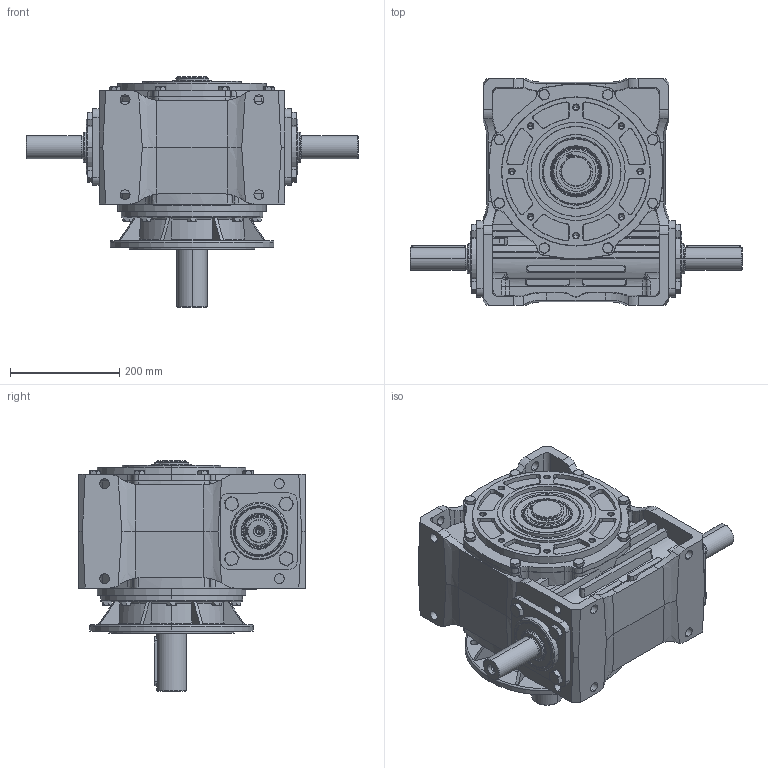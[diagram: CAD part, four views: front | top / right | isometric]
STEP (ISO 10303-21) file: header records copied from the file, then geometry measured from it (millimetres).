
FILE_DESCRIPTION (( 'STEP AP203' ), '1' );
FILE_NAME ('MR-160_WBS2-K300-WJ-3D.STEP', '2020-03-23T06:48:32', ( '' ), ( '' ), 'SwSTEP 2.0', 'SolidWorks 2013', '' );
FILE_SCHEMA (( 'CONFIG_CONTROL_DESIGN' ));
Length unit declared in the file: millimetre
Products named in the file (14): Podk³adka na wa³ek R-160; circlip for shafts normal_din_Circlip DIN 471 - 55 x 2; parallel_din_Parallel key A16 x 10 x 90 DIN 6885; MR-160 - do modeli; Pokrywa 166_do nowej wersji; Zaœlepka 110; Simmering 55x90x10 RST; Œlimak R-160_WBSD; parallel_din_Parallel key A12 x 8 x 100 DIN 6885; Ko³nierz 164_do modeli; hex screw gradeab_iso_ISO 4017 - M16 x 30-N; hex screw gradeab_iso_ISO 4017 - M10 x 30-N; MR-160_WBS2-K300-WJ-3D; Wa³ R-160_koˆnierzowy
Assembly tree (30 placements, depth 2):
  MR-160_WBS2-K300-WJ-3D
    MR-160 - do modeli
    Zaœlepka 110
    Œlimak R-160_WBSD
    Ko³nierz 164_do modeli
    hex screw gradeab_iso_ISO 4017 - M10 x 30-N  x8
    Wa³ R-160_koˆnierzowy
    Podk³adka na wa³ek R-160
    circlip for shafts normal_din_Circlip DIN 471 - 55 x 2
    parallel_din_Parallel key A16 x 10 x 90 DIN 6885
    Pokrywa 166_do nowej wersji  x2
    Simmering 55x90x10 RST  x2
    parallel_din_Parallel key A12 x 8 x 100 DIN 6885  x2
    hex screw gradeab_iso_ISO 4017 - M16 x 30-N  x8
Bounding box: 608 x 415 x 422 mm (x, y, z)
Volume: 15873938.3 mm3; surface area: 2340156.6 mm2
Topology: 42 solids, 42 shells, 3388 faces, 8133 edges, 4923 vertices
Faces by surface type: plane 1041, cone 821, cylinder 775, bspline 485, torus 187, sphere 79
Entity records: 110339 total; most frequent: CARTESIAN_POINT 44036, ORIENTED_EDGE 14038, DIRECTION 12866, EDGE_CURVE 7019, AXIS2_PLACEMENT_3D 5135, VERTEX_POINT 4327, EDGE_LOOP 3138, ADVANCED_FACE 2891
